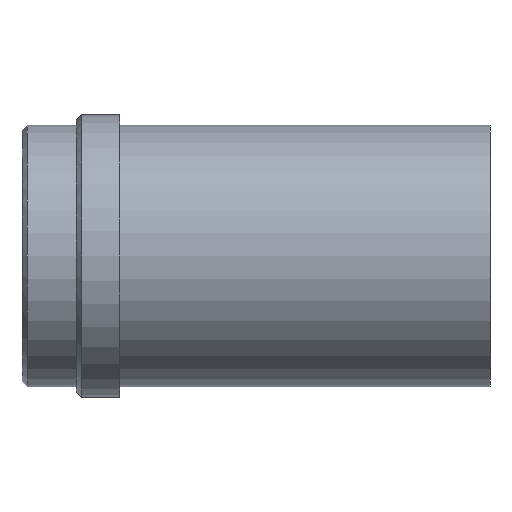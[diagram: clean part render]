
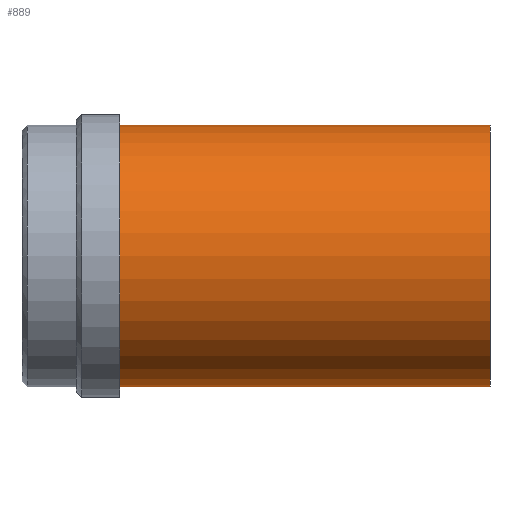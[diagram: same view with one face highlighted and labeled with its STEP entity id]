
A CAD part, front view. The second image highlights one B-rep face of the part: STEP entity #889.
In plain terms, the highlighted cylindrical face has radius 24 mm (diameter 48 mm), a partial arc.
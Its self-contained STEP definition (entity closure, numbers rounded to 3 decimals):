
#723=CARTESIAN_POINT('Vertex',(68.,0.,24.)) ;
#726=CARTESIAN_POINT('Axis2P3D Location',(68.,0.,0.)) ;
#730=CARTESIAN_POINT('Vertex',(68.,-24.,0.)) ;
#733=CARTESIAN_POINT('Axis2P3D Location',(68.,0.,0.)) ;
#737=CARTESIAN_POINT('Vertex',(68.,0.,-24.)) ;
#829=CARTESIAN_POINT('Line Origine',(68.,0.,24.)) ;
#833=CARTESIAN_POINT('Vertex',(0.,0.,24.)) ;
#836=CARTESIAN_POINT('Line Origine',(68.,0.,-24.)) ;
#840=CARTESIAN_POINT('Vertex',(0.,0.,-24.)) ;
#864=CARTESIAN_POINT('Axis2P3D Location',(68.,0.,0.)) ;
#869=CARTESIAN_POINT('Axis2P3D Location',(0.,0.,0.)) ;
#873=CARTESIAN_POINT('Vertex',(0.,-24.,0.)) ;
#876=CARTESIAN_POINT('Axis2P3D Location',(0.,0.,0.)) ;
#727=DIRECTION('Axis2P3D Direction',(1.,0.,-0.)) ;
#734=DIRECTION('Axis2P3D Direction',(1.,0.,-0.)) ;
#830=DIRECTION('Vector Direction',(-1.,0.,0.)) ;
#837=DIRECTION('Vector Direction',(-1.,0.,0.)) ;
#865=DIRECTION('Axis2P3D Direction',(-1.,-0.,-0.)) ;
#866=DIRECTION('Axis2P3D XDirection',(0.,0.,-1.)) ;
#870=DIRECTION('Axis2P3D Direction',(-1.,-0.,-0.)) ;
#877=DIRECTION('Axis2P3D Direction',(-1.,-0.,-0.)) ;
#728=AXIS2_PLACEMENT_3D('Circle Axis2P3D',#726,#727,$) ;
#735=AXIS2_PLACEMENT_3D('Circle Axis2P3D',#733,#734,$) ;
#867=AXIS2_PLACEMENT_3D('Cylinder Axis2P3D',#864,#865,#866) ;
#871=AXIS2_PLACEMENT_3D('Circle Axis2P3D',#869,#870,$) ;
#878=AXIS2_PLACEMENT_3D('Circle Axis2P3D',#876,#877,$) ;
#882=ORIENTED_EDGE('',*,*,#842,.T.) ;
#883=ORIENTED_EDGE('',*,*,#739,.F.) ;
#884=ORIENTED_EDGE('',*,*,#732,.F.) ;
#885=ORIENTED_EDGE('',*,*,#835,.T.) ;
#886=ORIENTED_EDGE('',*,*,#875,.T.) ;
#887=ORIENTED_EDGE('',*,*,#880,.T.) ;
#831=VECTOR('Line Direction',#830,1.) ;
#838=VECTOR('Line Direction',#837,1.) ;
#889=ADVANCED_FACE('358-40X86',(#888),#868,.T.) ;
#729=CIRCLE('generated circle',#728,24.) ;
#736=CIRCLE('generated circle',#735,24.) ;
#872=CIRCLE('generated circle',#871,24.) ;
#879=CIRCLE('generated circle',#878,24.) ;
#868=CYLINDRICAL_SURFACE('generated cylinder',#867,24.) ;
#732=EDGE_CURVE('',#724,#731,#729,.T.) ;
#739=EDGE_CURVE('',#731,#738,#736,.T.) ;
#835=EDGE_CURVE('',#724,#834,#832,.T.) ;
#842=EDGE_CURVE('',#841,#738,#839,.F.) ;
#875=EDGE_CURVE('',#834,#874,#872,.F.) ;
#880=EDGE_CURVE('',#874,#841,#879,.F.) ;
#881=EDGE_LOOP('',(#882,#883,#884,#885,#886,#887)) ;
#888=FACE_OUTER_BOUND('',#881,.T.) ;
#832=LINE('Line',#829,#831) ;
#839=LINE('Line',#836,#838) ;
#724=VERTEX_POINT('',#723) ;
#731=VERTEX_POINT('',#730) ;
#738=VERTEX_POINT('',#737) ;
#834=VERTEX_POINT('',#833) ;
#841=VERTEX_POINT('',#840) ;
#874=VERTEX_POINT('',#873) ;
